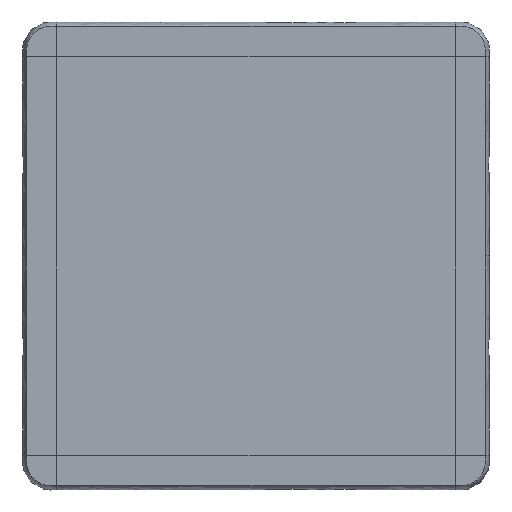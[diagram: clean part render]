
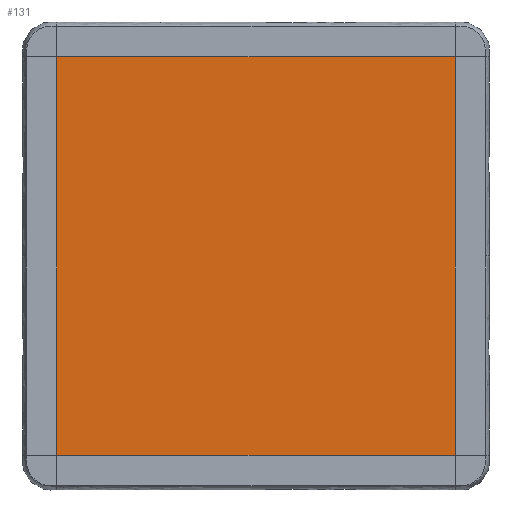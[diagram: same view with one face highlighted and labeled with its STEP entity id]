
A CAD part, top view. The second image highlights one B-rep face of the part: STEP entity #131.
In plain terms, the highlighted planar face has unit normal (0, 0, 1).
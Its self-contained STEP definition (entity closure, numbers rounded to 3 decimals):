
#131=ADVANCED_FACE('',(#263),#2077,.T.);
#263=FACE_OUTER_BOUND('',#421,.T.);
#421=EDGE_LOOP('',(#791,#792,#793,#794,#795,#796,#797,#798));
#791=ORIENTED_EDGE('',*,*,#1311,.T.);
#792=ORIENTED_EDGE('',*,*,#1312,.T.);
#793=ORIENTED_EDGE('',*,*,#1313,.T.);
#794=ORIENTED_EDGE('',*,*,#1314,.T.);
#795=ORIENTED_EDGE('',*,*,#1315,.T.);
#796=ORIENTED_EDGE('',*,*,#1316,.T.);
#797=ORIENTED_EDGE('',*,*,#1317,.T.);
#798=ORIENTED_EDGE('',*,*,#1318,.T.);
#1311=EDGE_CURVE('',#1917,#1918,#1553,.T.);
#1312=EDGE_CURVE('',#1918,#1919,#1554,.T.);
#1313=EDGE_CURVE('',#1919,#1920,#1555,.T.);
#1314=EDGE_CURVE('',#1920,#1921,#1556,.T.);
#1315=EDGE_CURVE('',#1921,#1922,#1557,.T.);
#1316=EDGE_CURVE('',#1922,#1923,#1558,.T.);
#1317=EDGE_CURVE('',#1923,#1924,#1559,.T.);
#1318=EDGE_CURVE('',#1924,#1917,#1560,.T.);
#1553=B_SPLINE_CURVE_WITH_KNOTS('',1,(#9089,#9090),.UNSPECIFIED.,.F.,.F.,
(2,2),(-338.646,37.507),.UNSPECIFIED.);
#1554=B_SPLINE_CURVE_WITH_KNOTS('',1,(#9091,#9092),.UNSPECIFIED.,.F.,.F.,
(2,2),(37.507,37.549),.UNSPECIFIED.);
#1555=B_SPLINE_CURVE_WITH_KNOTS('',1,(#9093,#9094),.UNSPECIFIED.,.F.,.F.,
(2,2),(37.549,412.983),.UNSPECIFIED.);
#1556=B_SPLINE_CURVE_WITH_KNOTS('',1,(#9095,#9096),.UNSPECIFIED.,.F.,.F.,
(2,2),(412.983,413.025),.UNSPECIFIED.);
#1557=B_SPLINE_CURVE_WITH_KNOTS('',1,(#9097,#9098),.UNSPECIFIED.,.F.,.F.,
(2,2),(32.322,408.475),.UNSPECIFIED.);
#1558=B_SPLINE_CURVE_WITH_KNOTS('',1,(#9099,#9100),.UNSPECIFIED.,.F.,.F.,
(2,2),(408.475,408.517),.UNSPECIFIED.);
#1559=B_SPLINE_CURVE_WITH_KNOTS('',1,(#9101,#9102),.UNSPECIFIED.,.F.,.F.,
(2,2),(408.517,783.951),.UNSPECIFIED.);
#1560=B_SPLINE_CURVE_WITH_KNOTS('',1,(#9103,#9104),.UNSPECIFIED.,.F.,.F.,
(2,2),(783.951,783.993),.UNSPECIFIED.);
#1917=VERTEX_POINT('',#9053);
#1918=VERTEX_POINT('',#9054);
#1919=VERTEX_POINT('',#9055);
#1920=VERTEX_POINT('',#9056);
#1921=VERTEX_POINT('',#9057);
#1922=VERTEX_POINT('',#9058);
#1923=VERTEX_POINT('',#9059);
#1924=VERTEX_POINT('',#9060);
#2077=PLANE('',#2195);
#2195=AXIS2_PLACEMENT_3D('',#3335,#2224,$);
#2224=DIRECTION('',(0.,0.,1.));
#3335=CARTESIAN_POINT('',(-216.971,-217.338,400.));
#9053=CARTESIAN_POINT('',(-212.717,213.076,400.));
#9054=CARTESIAN_POINT('',(-212.717,-213.076,400.));
#9055=CARTESIAN_POINT('',(-212.669,-213.076,400.));
#9056=CARTESIAN_POINT('',(212.669,-213.076,400.));
#9057=CARTESIAN_POINT('',(212.717,-213.076,400.));
#9058=CARTESIAN_POINT('',(212.717,213.076,400.));
#9059=CARTESIAN_POINT('',(212.669,213.076,400.));
#9060=CARTESIAN_POINT('',(-212.669,213.076,400.));
#9089=CARTESIAN_POINT('',(-212.717,213.076,400.));
#9090=CARTESIAN_POINT('',(-212.717,-213.076,400.));
#9091=CARTESIAN_POINT('',(-212.717,-213.076,400.));
#9092=CARTESIAN_POINT('',(-212.669,-213.076,400.));
#9093=CARTESIAN_POINT('',(-212.669,-213.076,400.));
#9094=CARTESIAN_POINT('',(212.669,-213.076,400.));
#9095=CARTESIAN_POINT('',(212.669,-213.076,400.));
#9096=CARTESIAN_POINT('',(212.717,-213.076,400.));
#9097=CARTESIAN_POINT('',(212.717,-213.076,400.));
#9098=CARTESIAN_POINT('',(212.717,213.076,400.));
#9099=CARTESIAN_POINT('',(212.717,213.076,400.));
#9100=CARTESIAN_POINT('',(212.669,213.076,400.));
#9101=CARTESIAN_POINT('',(212.669,213.076,400.));
#9102=CARTESIAN_POINT('',(-212.669,213.076,400.));
#9103=CARTESIAN_POINT('',(-212.669,213.076,400.));
#9104=CARTESIAN_POINT('',(-212.717,213.076,400.));
